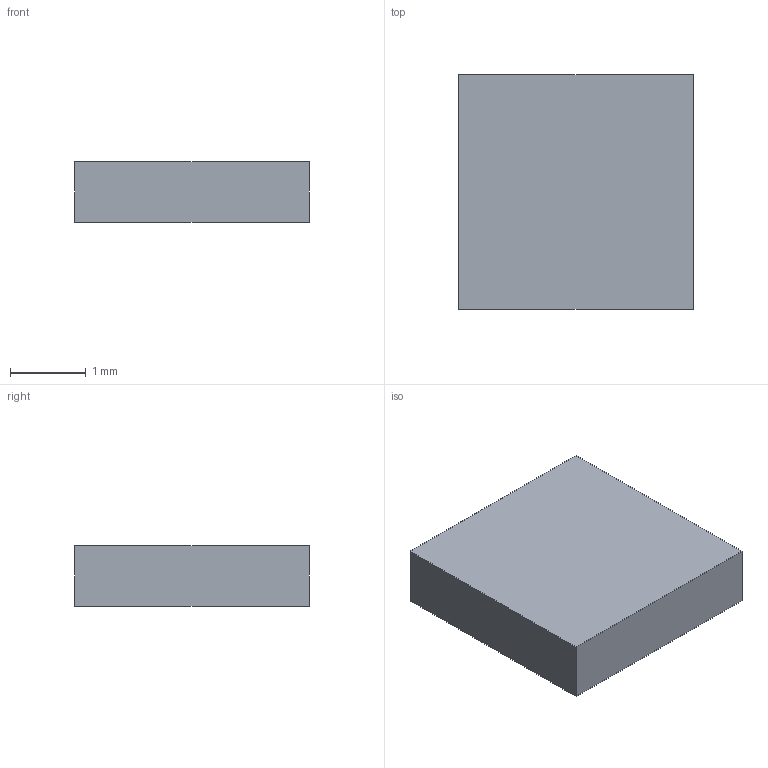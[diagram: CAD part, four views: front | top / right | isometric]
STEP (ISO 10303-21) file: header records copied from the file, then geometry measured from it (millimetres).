
FILE_DESCRIPTION(('Open CASCADE Model'),'2;1');
FILE_NAME('Open CASCADE Shape Model','2026-10-24T17:46:06',('Author'),( 'Open CASCADE'),'Open CASCADE STEP processor 8.0','Open CASCADE 8.0' ,'Unknown');
FILE_SCHEMA(('AUTOMOTIVE_DESIGN { 1 0 10303 214 1 1 1 1 }'));
Length unit declared in the file: millimetre
Products named in the file (1): Open CASCADE STEP translator 8.0 40
Bounding box: 3.1 x 3.1 x 0.8 mm (x, y, z)
Volume: 7.7 mm3; surface area: 29.1 mm2
Topology: 1 solids, 1 shells, 6 faces, 12 edges, 8 vertices
Faces by surface type: plane 6
Entity records: 322 total; most frequent: CARTESIAN_POINT 51, DIRECTION 50, LINE 36, VECTOR 36, ORIENTED_EDGE 24, PCURVE 24, DEFINITIONAL_REPRESENTATION 24, EDGE_CURVE 12
